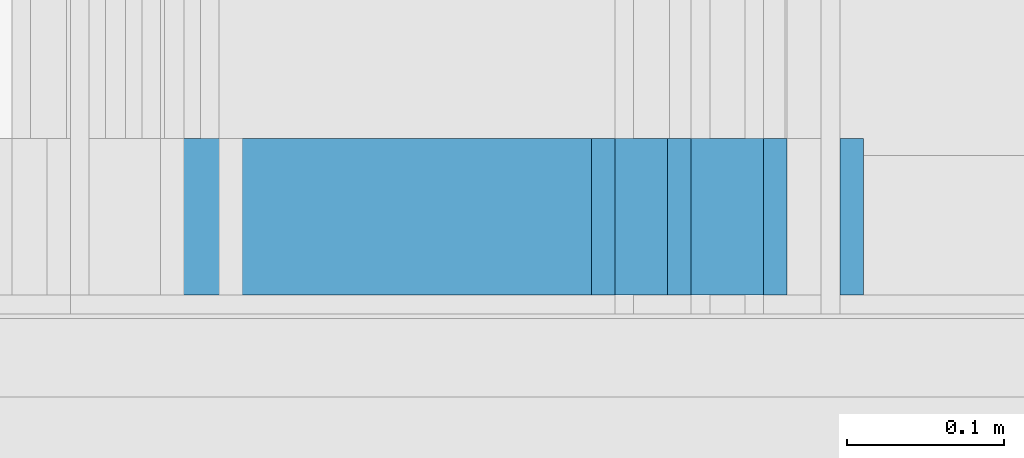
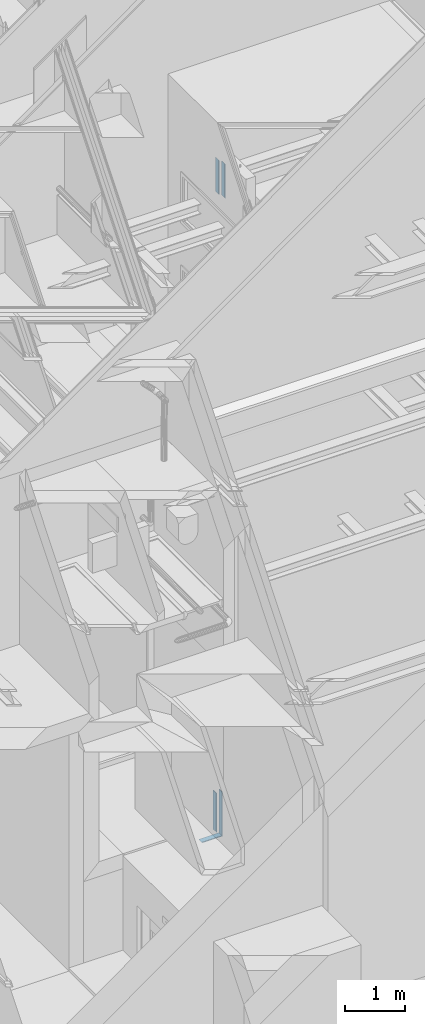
# One storey, part 224 of 583: 5 building element parts, 3 elements without a shape of their own.
"""IFC2X3 building model written with IfcOpenShell, lengths in metres."""

from ifc_helpers import new_model, entity, si_unit, converted_unit, derived_unit, money_unit, direction, frame, origin_with_axes, place, context, subcontext, project, spatial, polyline, outline, extrude, material, type_object, element, aggregate, save


model = new_model("IFC2X3")

# Units and contexts
model_context = context("Model", 3, precision=1e-05, world=origin_with_axes(), true_north=direction((0.0, 1.0)))
body_context = subcontext(model_context, "Body", "Model", "MODEL_VIEW", scale=1.0)
ifc_project = project(units=[si_unit("LENGTHUNIT", "METRE"), si_unit("AREAUNIT", "SQUARE_METRE"), si_unit("VOLUMEUNIT", "CUBIC_METRE"), si_unit("ABSORBEDDOSEUNIT", "GRAY"), si_unit("AMOUNTOFSUBSTANCEUNIT", "MOLE"), si_unit("DOSEEQUIVALENTUNIT", "SIEVERT"), si_unit("ELECTRICCAPACITANCEUNIT", "FARAD"), si_unit("ELECTRICCHARGEUNIT", "COULOMB"), si_unit("ELECTRICCONDUCTANCEUNIT", "SIEMENS"), si_unit("ELECTRICCURRENTUNIT", "AMPERE"), si_unit("ELECTRICRESISTANCEUNIT", "OHM"), si_unit("ELECTRICVOLTAGEUNIT", "VOLT"), si_unit("ENERGYUNIT", "JOULE"), si_unit("FORCEUNIT", "NEWTON"), si_unit("FREQUENCYUNIT", "HERTZ"), si_unit("ILLUMINANCEUNIT", "LUX"), si_unit("INDUCTANCEUNIT", "HENRY"), si_unit("LUMINOUSFLUXUNIT", "LUMEN"), si_unit("LUMINOUSINTENSITYUNIT", "CANDELA"), si_unit("MAGNETICFLUXDENSITYUNIT", "TESLA"), si_unit("MAGNETICFLUXUNIT", "WEBER"), si_unit("MASSUNIT", "GRAM"), converted_unit("PLANEANGLEUNIT", "degree", entity("IfcReal", 0.0174532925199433), si_unit("PLANEANGLEUNIT", "RADIAN"), dimensions=[0, 0, 0, 0, 0, 0, 0]), si_unit("POWERUNIT", "WATT"), si_unit("PRESSUREUNIT", "PASCAL"), si_unit("RADIOACTIVITYUNIT", "BECQUEREL"), si_unit("SOLIDANGLEUNIT", "STERADIAN"), si_unit("THERMODYNAMICTEMPERATUREUNIT", "KELVIN"), si_unit("TIMEUNIT", "SECOND"), derived_unit("ACCELERATIONUNIT", [(si_unit("LENGTHUNIT", "METRE"), 1), (si_unit("TIMEUNIT", "SECOND"), -2)]), derived_unit("ANGULARVELOCITYUNIT", [(converted_unit("PLANEANGLEUNIT", "degree", entity("IfcReal", 0.0174532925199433), si_unit("PLANEANGLEUNIT", "RADIAN"), dimensions=[0, 0, 0, 0, 0, 0, 0]), 1), (si_unit("TIMEUNIT", "SECOND"), -1)]), derived_unit("CURVATUREUNIT", [(converted_unit("PLANEANGLEUNIT", "degree", entity("IfcReal", 0.0174532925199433), si_unit("PLANEANGLEUNIT", "RADIAN"), dimensions=[0, 0, 0, 0, 0, 0, 0]), 1), (si_unit("LENGTHUNIT", "METRE"), -1)]), derived_unit("DYNAMICVISCOSITYUNIT", [(si_unit("PRESSUREUNIT", "PASCAL"), 1), (si_unit("TIMEUNIT", "SECOND"), 1)]), derived_unit("HEATFLUXDENSITYUNIT", [(si_unit("POWERUNIT", "WATT"), 1), (si_unit("LENGTHUNIT", "METRE"), -2)]), derived_unit("HEATINGVALUEUNIT", [(si_unit("ENERGYUNIT", "JOULE"), 1), (si_unit("MASSUNIT", "GRAM"), -1)]), derived_unit("INTEGERCOUNTRATEUNIT", [(si_unit("TIMEUNIT", "SECOND"), -1)]), derived_unit("IONCONCENTRATIONUNIT", [(si_unit("MASSUNIT", "GRAM"), 1), (si_unit("VOLUMEUNIT", "CUBIC_METRE"), -1)]), derived_unit("ISOTHERMALMOISTURECAPACITYUNIT", [(si_unit("VOLUMEUNIT", "CUBIC_METRE"), 1), (si_unit("MASSUNIT", "GRAM"), -1)]), derived_unit("KINEMATICVISCOSITYUNIT", [(si_unit("AREAUNIT", "SQUARE_METRE"), 1), (si_unit("TIMEUNIT", "SECOND"), -1)]), derived_unit("LINEARFORCEUNIT", [(si_unit("FORCEUNIT", "NEWTON"), 1), (si_unit("LENGTHUNIT", "METRE"), -1)]), derived_unit("LINEARMOMENTUNIT", [(si_unit("FORCEUNIT", "NEWTON"), 1), (si_unit("LENGTHUNIT", "METRE"), -1)]), derived_unit("LINEARSTIFFNESSUNIT", [(si_unit("FORCEUNIT", "NEWTON"), 1), (si_unit("LENGTHUNIT", "METRE"), -1)]), derived_unit("LINEARVELOCITYUNIT", [(si_unit("LENGTHUNIT", "METRE"), 1), (si_unit("TIMEUNIT", "SECOND"), -1)]), derived_unit("LUMINOUSINTENSITYDISTRIBUTIONUNIT", [(si_unit("LUMINOUSINTENSITYUNIT", "CANDELA"), 1), (si_unit("LUMINOUSFLUXUNIT", "LUMEN"), -1)]), derived_unit("MASSDENSITYUNIT", [(si_unit("MASSUNIT", "GRAM"), 1), (si_unit("VOLUMEUNIT", "CUBIC_METRE"), -1)]), derived_unit("MASSFLOWRATEUNIT", [(si_unit("MASSUNIT", "GRAM"), 1), (si_unit("TIMEUNIT", "SECOND"), -1)]), derived_unit("MASSPERLENGTHUNIT", [(si_unit("MASSUNIT", "GRAM"), 1), (si_unit("LENGTHUNIT", "METRE"), -1)]), derived_unit("MODULUSOFELASTICITYUNIT", [(si_unit("FORCEUNIT", "NEWTON"), 1), (si_unit("AREAUNIT", "SQUARE_METRE"), -1)]), derived_unit("MODULUSOFLINEARSUBGRADEREACTIONUNIT", [(si_unit("FORCEUNIT", "NEWTON"), 1), (si_unit("LENGTHUNIT", "METRE"), -2)]), derived_unit("MODULUSOFROTATIONALSUBGRADEREACTIONUNIT", [(si_unit("FORCEUNIT", "NEWTON"), 1), (si_unit("LENGTHUNIT", "METRE"), 1)]), derived_unit("MODULUSOFSUBGRADEREACTIONUNIT", [(si_unit("FORCEUNIT", "NEWTON"), 1), (si_unit("VOLUMEUNIT", "CUBIC_METRE"), -1)]), derived_unit("MOISTUREDIFFUSIVITYUNIT", [(si_unit("VOLUMEUNIT", "CUBIC_METRE"), 1), (si_unit("TIMEUNIT", "SECOND"), -1)]), derived_unit("MOLECULARWEIGHTUNIT", [(si_unit("MASSUNIT", "GRAM"), 1), (si_unit("AMOUNTOFSUBSTANCEUNIT", "MOLE"), -1)]), derived_unit("PLANARFORCEUNIT", [(si_unit("FORCEUNIT", "NEWTON"), 1), (si_unit("LENGTHUNIT", "METRE"), -2)]), derived_unit("ROTATIONALFREQUENCYUNIT", [(si_unit("TIMEUNIT", "SECOND"), -1)]), derived_unit("ROTATIONALMASSUNIT", [(si_unit("MASSUNIT", "GRAM"), 1), (si_unit("LENGTHUNIT", "METRE"), 2)]), derived_unit("ROTATIONALSTIFFNESSUNIT", [(si_unit("FORCEUNIT", "NEWTON"), 1), (si_unit("LENGTHUNIT", "METRE"), 1), (converted_unit("PLANEANGLEUNIT", "degree", entity("IfcReal", 0.0174532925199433), si_unit("PLANEANGLEUNIT", "RADIAN"), dimensions=[0, 0, 0, 0, 0, 0, 0]), -1)]), derived_unit("SECTIONAREAINTEGRALUNIT", [(si_unit("LENGTHUNIT", "METRE"), 5)]), derived_unit("SECTIONMODULUSUNIT", [(si_unit("LENGTHUNIT", "METRE"), 3)]), derived_unit("SHEARMODULUSUNIT", [(si_unit("FORCEUNIT", "NEWTON"), 1), (si_unit("AREAUNIT", "SQUARE_METRE"), -1)]), derived_unit("SOUNDPOWERUNIT", [(si_unit("ENERGYUNIT", "JOULE"), 1), (si_unit("TIMEUNIT", "SECOND"), -1)]), derived_unit("SPECIFICHEATCAPACITYUNIT", [(si_unit("FORCEUNIT", "NEWTON"), 1), (si_unit("MASSUNIT", "GRAM"), -1), (si_unit("THERMODYNAMICTEMPERATUREUNIT", "KELVIN"), -1)]), derived_unit("TEMPERATUREGRADIENTUNIT", [(si_unit("THERMODYNAMICTEMPERATUREUNIT", "KELVIN"), 1), (si_unit("LENGTHUNIT", "METRE"), -1)]), derived_unit("THERMALADMITTANCEUNIT", [(si_unit("POWERUNIT", "WATT"), 1), (si_unit("AREAUNIT", "SQUARE_METRE"), -1), (si_unit("THERMODYNAMICTEMPERATUREUNIT", "KELVIN"), -1)]), derived_unit("THERMALCONDUCTANCEUNIT", [(si_unit("POWERUNIT", "WATT"), 1), (si_unit("LENGTHUNIT", "METRE"), -1), (si_unit("THERMODYNAMICTEMPERATUREUNIT", "KELVIN"), -1)]), derived_unit("THERMALEXPANSIONCOEFFICIENTUNIT", [(si_unit("THERMODYNAMICTEMPERATUREUNIT", "KELVIN"), -1)]), derived_unit("THERMALRESISTANCEUNIT", [(si_unit("AREAUNIT", "SQUARE_METRE"), 1), (si_unit("POWERUNIT", "WATT"), -1)]), derived_unit("THERMALTRANSMITTANCEUNIT", [(si_unit("POWERUNIT", "WATT"), 1), (si_unit("AREAUNIT", "SQUARE_METRE"), -1), (si_unit("THERMODYNAMICTEMPERATUREUNIT", "KELVIN"), -1)]), derived_unit("TORQUEUNIT", [(si_unit("FORCEUNIT", "NEWTON"), 1), (si_unit("LENGTHUNIT", "METRE"), 1)]), derived_unit("VAPORPERMEABILITYUNIT", [(si_unit("MASSUNIT", "GRAM"), 1), (si_unit("TIMEUNIT", "SECOND"), -1)]), derived_unit("VOLUMETRICFLOWRATEUNIT", [(si_unit("VOLUMEUNIT", "CUBIC_METRE"), 1), (si_unit("TIMEUNIT", "SECOND"), -1)]), derived_unit("WARPINGCONSTANTUNIT", [(si_unit("LENGTHUNIT", "METRE"), 6)]), derived_unit("WARPINGMOMENTUNIT", [(si_unit("FORCEUNIT", "NEWTON"), 1), (si_unit("LENGTHUNIT", "METRE"), 2)]), money_unit("GBP")], contexts=[model_context])

# Site, building, storey
site_placement = place(None, origin_with_axes())
site = spatial("IfcSite", under=ifc_project, at=site_placement, Name="Site", CompositionType="ELEMENT")
building_placement = place(site_placement, origin_with_axes())
building = spatial("IfcBuilding", under=site, at=building_placement, Name="Building01", CompositionType="ELEMENT")
storey_placement = place(building_placement, frame((0.0, 0.0, 20.78), z_axis=(0.0, 0.0, 1.0), x_axis=(1.0, 0.0, 0.0)))
storey = spatial("IfcBuildingStorey", under=building, at=storey_placement, Name="RL", CompositionType="ELEMENT", Elevation=20.78)

# Wall, building element parts
wall_type = type_object("IfcWallType", Name="SHE_A-Walls_Type05a_Partition_95mm_tall", PredefinedType="NOTDEFINED")
wall_1_placement = place(storey_placement, frame((12.099378, 8.64, -1.694716), z_axis=(0.0, 1.0, 0.0), x_axis=(0.0, 0.0, 1.0)))
wall_1 = element("IfcWall", 1, at=wall_1_placement, inside=storey, type_object=wall_type, Name="5A", ObjectType="SHE_A-Walls_Type05a_Partition_95mm_tall")
ifc_material = material(Name="A_BSUK_Walls_Timber")
placement_1 = place(wall_1_placement, origin_with_axes())
building_element_part_1 = element("IfcBuildingElementPart", 2, at=placement_1, material=ifc_material, Name="2", context=body_context, shape_type="SweptSolid", body=[
    extrude(outline(polyline([(0.614716, 0.075), (-0.075, 0.075), (-0.06, 0.06), (0.629716, 0.06), (0.614716, 0.075)])), frame((0.0, 0.0, 0.015), z_axis=(0.0, 0.0, 1.0), x_axis=(1.0, 0.0, 0.0)), (0.0, 0.0, 1.0), 0.1),
])
building_element_part_2 = element("IfcBuildingElementPart", 3, at=placement_1, material=ifc_material, Name="3", context=body_context, shape_type="SweptSolid", body=[
    extrude(outline(polyline([(0.724716, -0.035), (0.035, -0.035), (0.05, -0.05), (0.739716, -0.05), (0.724716, -0.035)])), frame((0.0, 0.0, 0.015), z_axis=(0.0, 0.0, 1.0), x_axis=(1.0, 0.0, 0.0)), (0.0, 0.0, 1.0), 0.1),
])
aggregate(wall_1, [building_element_part_1, building_element_part_2])

# Wall, building element part
wall_2_placement = place(storey_placement, frame((11.66567, 8.64, -14.550331), z_axis=(0.0, 1.0, 0.0), x_axis=(1.0, 0.0, 0.0)))
wall_2 = element("IfcWall", 4, at=wall_2_placement, inside=storey, type_object=wall_type, Name="5A", ObjectType="SHE_A-Walls_Type05a_Partition_95mm_tall")
building_element_part_3_placement = place(wall_2_placement, origin_with_axes())
building_element_part_3 = element("IfcBuildingElementPart", 5, at=building_element_part_3_placement, material=ifc_material, Name="2", context=body_context, shape_type="SweptSolid", body=[
    extrude(outline(polyline([(0.46, 0.075), (0.075, 0.075), (0.06, 0.06), (0.445, 0.06), (0.46, 0.075)])), frame((0.0, 0.0, 0.015), z_axis=(0.0, 0.0, 1.0), x_axis=(1.0, 0.0, 0.0)), (0.0, 0.0, 1.0), 0.1),
])
aggregate(wall_2, [building_element_part_3])

# Wall, building element parts
wall_3_placement = place(storey_placement, frame((12.05067, 8.64, -14.550331), z_axis=(0.0, 1.0, 0.0), x_axis=(0.0, 0.0, 1.0)))
wall_3 = element("IfcWall", 6, at=wall_3_placement, inside=storey, type_object=wall_type, Name="5A", ObjectType="SHE_A-Walls_Type05a_Partition_95mm_tall")
placement_2 = place(wall_3_placement, origin_with_axes())
building_element_part_4 = element("IfcBuildingElementPart", 7, at=placement_2, material=ifc_material, Name="2", context=body_context, shape_type="SweptSolid", body=[
    extrude(outline(polyline([(0.82, 0.075), (-0.075, 0.075), (-0.06, 0.06), (0.82, 0.06), (0.82, 0.075)])), frame((0.0, 0.0, 0.015), z_axis=(0.0, 0.0, 1.0), x_axis=(1.0, 0.0, 0.0)), (0.0, 0.0, 1.0), 0.1),
])
building_element_part_5 = element("IfcBuildingElementPart", 8, at=placement_2, material=ifc_material, Name="3", context=body_context, shape_type="SweptSolid", body=[
    extrude(outline(polyline([(0.835, -0.035), (0.035, -0.035), (0.05, -0.05), (0.835, -0.05), (0.835, -0.035)])), frame((0.0, 0.0, 0.015), z_axis=(0.0, 0.0, 1.0), x_axis=(1.0, 0.0, 0.0)), (0.0, 0.0, 1.0), 0.1),
])
aggregate(wall_3, [building_element_part_4, building_element_part_5])

save(model, "model.ifc")
